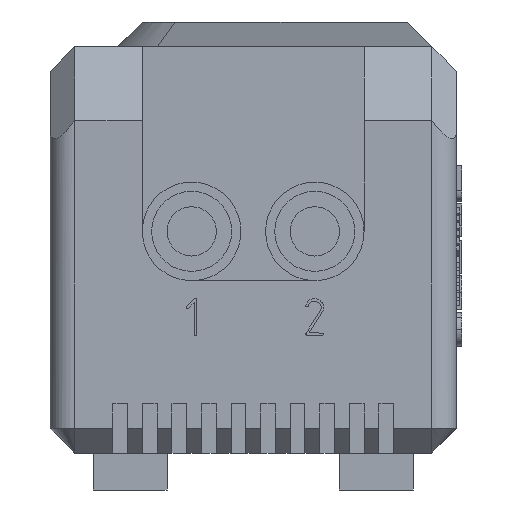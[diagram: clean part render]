
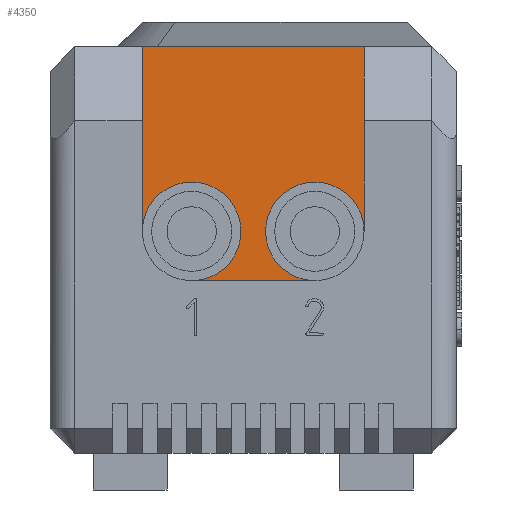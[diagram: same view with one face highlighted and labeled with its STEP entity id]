
A CAD part, front view. The second image highlights one B-rep face of the part: STEP entity #4350.
In plain terms, the highlighted planar face has unit normal (0, -1, 0).
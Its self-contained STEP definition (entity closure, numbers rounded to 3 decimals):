
#2513 = VERTEX_POINT ( 'NONE', #10577 ) ;
#2523 = VERTEX_POINT ( 'NONE', #10687 ) ;
#2639 = VERTEX_POINT ( 'NONE', #11436 ) ;
#2726 = VERTEX_POINT ( 'NONE', #11279 ) ;
#2755 = VERTEX_POINT ( 'NONE', #11431 ) ;
#2756 = VERTEX_POINT ( 'NONE', #11517 ) ;
#2986 = ORIENTED_EDGE ( 'NONE', *, *, #6017, .T. ) ;
#2992 = ORIENTED_EDGE ( 'NONE', *, *, #6018, .F. ) ;
#3110 = ORIENTED_EDGE ( 'NONE', *, *, #6015, .T. ) ;
#3116 = ORIENTED_EDGE ( 'NONE', *, *, #4456, .F. ) ;
#3118 = ORIENTED_EDGE ( 'NONE', *, *, #4466, .F. ) ;
#3134 = ORIENTED_EDGE ( 'NONE', *, *, #4528, .T. ) ;
#3135 = ORIENTED_EDGE ( 'NONE', *, *, #6014, .T. ) ;
#3156 = ORIENTED_EDGE ( 'NONE', *, *, #6016, .F. ) ;
#4128 = AXIS2_PLACEMENT_3D ( 'NONE', #15263, #15268, #15269 ) ;
#4173 = AXIS2_PLACEMENT_3D ( 'NONE', #15632, #15633, #15634 ) ;
#4180 = AXIS2_PLACEMENT_3D ( 'NONE', #15661, #15662, #15663 ) ;
#4200 = AXIS2_PLACEMENT_3D ( 'NONE', #13828, #13829, #13830 ) ;
#4201 = AXIS2_PLACEMENT_3D ( 'NONE', #13834, #13835, #13836 ) ;
#4350 = ADVANCED_FACE ( 'NONE', ( #12238 ), #15262, .F. ) ;
#4456 = EDGE_CURVE ( 'NONE', #2726, #2523, #12412, .T. ) ;
#4466 = EDGE_CURVE ( 'NONE', #2756, #2755, #12426, .T. ) ;
#4528 = EDGE_CURVE ( 'NONE', #2639, #2513, #12540, .T. ) ;
#5291 = VERTEX_POINT ( 'NONE', #13323 ) ;
#5314 = VERTEX_POINT ( 'NONE', #13346 ) ;
#6014 = EDGE_CURVE ( 'NONE', #2513, #2755, #7931, .T. ) ;
#6015 = EDGE_CURVE ( 'NONE', #5314, #2639, #7932, .T. ) ;
#6016 = EDGE_CURVE ( 'NONE', #5291, #2756, #7934, .T. ) ;
#6017 = EDGE_CURVE ( 'NONE', #5291, #2523, #7929, .T. ) ;
#6018 = EDGE_CURVE ( 'NONE', #5314, #2726, #7937, .T. ) ;
#7929 = LINE ( 'NONE', #13827, #7938 ) ;
#7931 = LINE ( 'NONE', #13819, #7933 ) ;
#7932 = LINE ( 'NONE', #13824, #7935 ) ;
#7933 = VECTOR ( 'NONE', #13815, 1000. ) ;
#7934 = CIRCLE ( 'NONE', #4200, 4. ) ;
#7935 = VECTOR ( 'NONE', #13825, 1000. ) ;
#7937 = CIRCLE ( 'NONE', #4201, 4. ) ;
#7938 = VECTOR ( 'NONE', #13820, 1000. ) ;
#10577 = CARTESIAN_POINT ( 'NONE',  ( 7.5, -24.5, 33. ) ) ;
#10687 = CARTESIAN_POINT ( 'NONE',  ( 21.5, -24.5, 14. ) ) ;
#11279 = CARTESIAN_POINT ( 'NONE',  ( 21.5, -24.5, 22. ) ) ;
#11431 = CARTESIAN_POINT ( 'NONE',  ( 7.5, -24.5, 18. ) ) ;
#11436 = CARTESIAN_POINT ( 'NONE',  ( 25.5, -24.5, 33. ) ) ;
#11517 = CARTESIAN_POINT ( 'NONE',  ( 11.5, -24.5, 22. ) ) ;
#12238 = FACE_OUTER_BOUND ( 'NONE', #14007, .T. ) ;
#12412 = CIRCLE ( 'NONE', #4173, 4. ) ;
#12426 = CIRCLE ( 'NONE', #4180, 4. ) ;
#12540 = LINE ( 'NONE', #15850, #12543 ) ;
#12543 = VECTOR ( 'NONE', #15853, 1000. ) ;
#13323 = CARTESIAN_POINT ( 'NONE',  ( 11.5, -24.5, 14. ) ) ;
#13346 = CARTESIAN_POINT ( 'NONE',  ( 25.5, -24.5, 18. ) ) ;
#13815 = DIRECTION ( 'NONE',  ( 0., 0., -1. ) ) ;
#13819 = CARTESIAN_POINT ( 'NONE',  ( 7.5, -24.5, 33. ) ) ;
#13820 = DIRECTION ( 'NONE',  ( 1., 0., 0. ) ) ;
#13824 = CARTESIAN_POINT ( 'NONE',  ( 25.5, -24.5, 33. ) ) ;
#13825 = DIRECTION ( 'NONE',  ( 0., 0., 1. ) ) ;
#13827 = CARTESIAN_POINT ( 'NONE',  ( 11.5, -24.5, 14. ) ) ;
#13828 = CARTESIAN_POINT ( 'NONE',  ( 11.5, -24.5, 18. ) ) ;
#13829 = DIRECTION ( 'NONE',  ( 0., -1., 0. ) ) ;
#13830 = DIRECTION ( 'NONE',  ( 0., 0., 1. ) ) ;
#13834 = CARTESIAN_POINT ( 'NONE',  ( 21.5, -24.5, 18. ) ) ;
#13835 = DIRECTION ( 'NONE',  ( 0., -1., 0. ) ) ;
#13836 = DIRECTION ( 'NONE',  ( 0., 0., 1. ) ) ;
#14007 = EDGE_LOOP ( 'NONE', ( #3156, #2986, #3116, #2992, #3110, #3134, #3135, #3118 ) ) ;
#15262 = PLANE ( 'NONE',  #4128 ) ;
#15263 = CARTESIAN_POINT ( 'NONE',  ( 11.5, -24.5, 18. ) ) ;
#15268 = DIRECTION ( 'NONE',  ( 0., 1., 0. ) ) ;
#15269 = DIRECTION ( 'NONE',  ( 0., 0., 1. ) ) ;
#15632 = CARTESIAN_POINT ( 'NONE',  ( 21.5, -24.5, 18. ) ) ;
#15633 = DIRECTION ( 'NONE',  ( 0., -1., 0. ) ) ;
#15634 = DIRECTION ( 'NONE',  ( 0., 0., 1. ) ) ;
#15661 = CARTESIAN_POINT ( 'NONE',  ( 11.5, -24.5, 18. ) ) ;
#15662 = DIRECTION ( 'NONE',  ( 0., -1., 0. ) ) ;
#15663 = DIRECTION ( 'NONE',  ( 0., 0., 1. ) ) ;
#15850 = CARTESIAN_POINT ( 'NONE',  ( 7.5, -24.5, 33. ) ) ;
#15853 = DIRECTION ( 'NONE',  ( -1., 0., 0. ) ) ;
